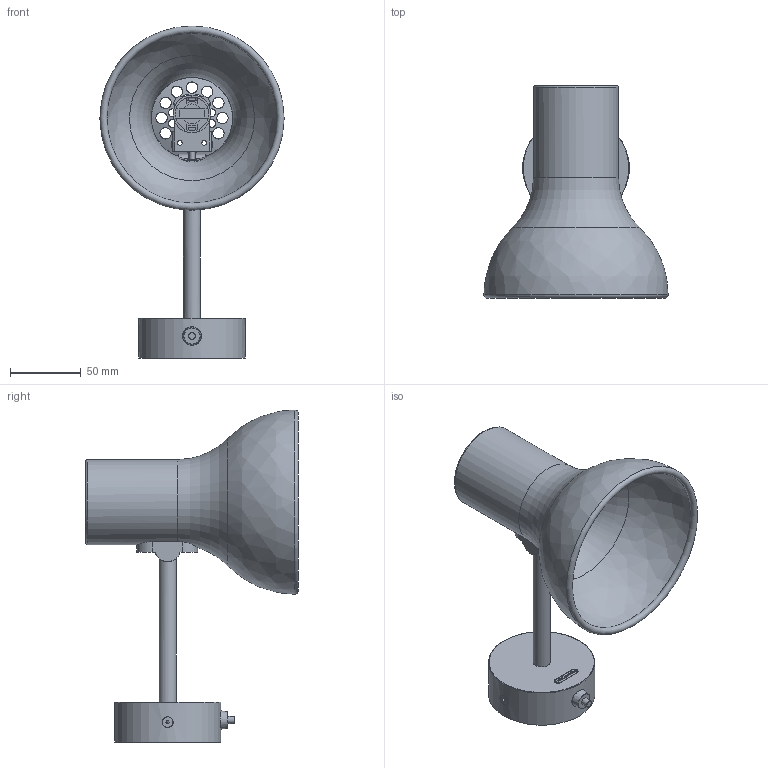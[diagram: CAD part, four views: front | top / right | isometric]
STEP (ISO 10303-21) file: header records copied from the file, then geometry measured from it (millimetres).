
FILE_DESCRIPTION(/* description */ (''),/* implementation_level */ '2;1');
FILE_NAME(/* name */ 'C:/Users/tfalope/Desktop/tech file/Type_75_Mini_Wall_Light_STEP_01 v2.step',/* time_stamp */ '2021-10-11T18:19:45+01:00',/* author */ (''),/* organization */ (''),/* preprocessor_version */ 'ST-DEVELOPER v18.1',/* originating_system */ 'Autodesk Translation Framework v10.10.0.1391',/* authorisation */ '');
FILE_SCHEMA (('AUTOMOTIVE_DESIGN { 1 0 10303 214 3 1 1 }'));
Length unit declared in the file: millimetre
Products named in the file (2): Type_75_Mini_Wall_Light_STEP_01; Component16
Assembly tree (1 placements, depth 2):
  Type_75_Mini_Wall_Light_STEP_01
    Component16
Bounding box: 130 x 150 x 234.3 mm (x, y, z)
Volume: 92400.9 mm3; surface area: 140334.5 mm2
Topology: 2 solids, 6 shells, 514 faces, 1378 edges, 909 vertices
Faces by surface type: plane 321, cylinder 147, bspline 24, torus 12, cone 8, sphere 2
Full cylindrical faces by diameter (mm): 0.53 x1, 0.653 x1, 3 x2, 3.3 x2, 4 x4, 4.5 x6, 5 x1, 5.5 x12, 6 x2, 7.4 x1, 7.53 x2, 8 x15, 8.2 x1, 9.8 x1, 10 x6, 10.2 x1, 12 x1, 13 x1, 13.2 x1, 23.9 x1, 26.5 x1, 58 x1, 60 x1, 70 x1, 75 x1, 125 x1
Entity records: 19784 total; most frequent: CARTESIAN_POINT 6881, ORIENTED_EDGE 2752, DIRECTION 2463, EDGE_CURVE 1376, VERTEX_POINT 909, LINE 855, VECTOR 855, AXIS2_PLACEMENT_3D 804
